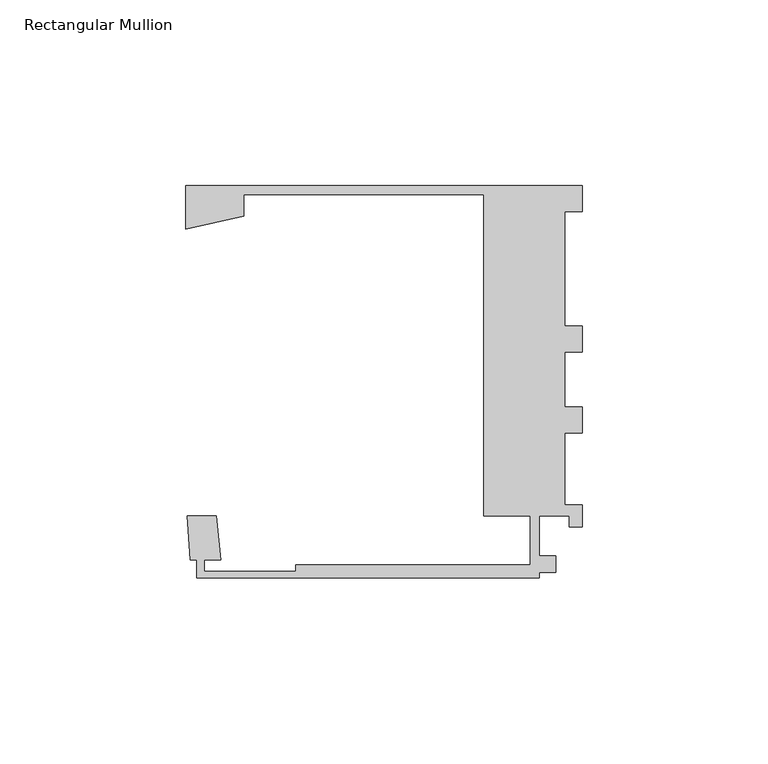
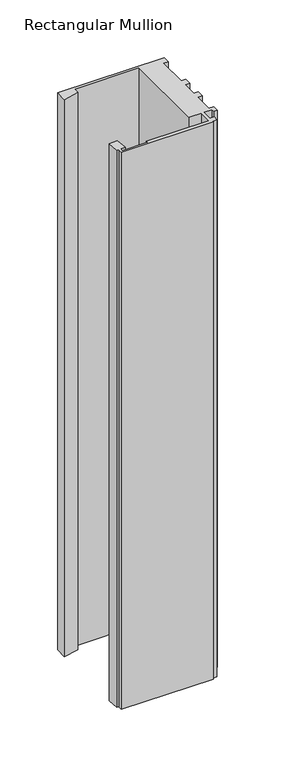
"""IFC4 building model written with IfcOpenShell, lengths in millimetres: member geometry, Rectangular Mullion : Danpal_Airpt_End-Mullion_B1."""

from ifc_helpers import new_model, si_unit, frame, origin, place, context, project, spatial, polyline, outline, extrude, source, transform, mapped, element, save


def rectangular_mullion_3d33f7ff(model_context):
    return source(origin(), model_context, "Body", "SweptSolid", [
        extrude(outline(polyline([(-11.6055875, -92.6094337), (-103.8999976, -92.6094337), (-103.8999976, -87.7698451), (-105.6776694, -87.7698451), (-106.4274982, -75.8596534), (-98.5693208, -75.8596534), (-97.4384397, -87.7698451), (-101.8999976, -87.7698451), (-101.8999976, -90.8094336), (-77.1531178, -90.8094336), (-77.1531178, -89.1094336), (-14.1055875, -89.1094336), (-14.1055875, -75.8596534), (-26.6209612, -75.8596534), (-26.6209612, 10.6837558), (-91.2900275, 10.6837558), (-91.2900275, 4.9090081), (-106.8892292, 1.4378016), (-106.8892292, 13.1837558), (0.0, 13.1837558), (0.0, 6.1837558), (-4.8, 6.1837558), (-4.8, -24.6595054), (0.0, -24.6595054), (0.0, -31.6595227), (-4.8, -31.6595227), (-4.8, -46.4688518), (0.0, -46.4688518), (0.0, -53.4688518), (-4.8, -53.4688518), (-4.8, -72.9077707), (0.0, -72.9077707), (0.0, -78.8594337), (-3.5072447, -78.8594337), (-3.5072447, -75.8594337), (-11.6055875, -75.8594337), (-11.6055875, -86.6049249), (-7.1518595, -86.6049249), (-7.1518595, -91.1094337), (-11.6055875, -91.1094337), (-11.6055875, -92.6094337)])), frame((0.0, 0.0, -590.9514438), z_axis=(0.0, 0.0, 1.0), x_axis=(1.0, 0.0, 0.0)), (0.0, 0.0, 1.0), 590.9514438),
    ])


if __name__ == "__main__":
    model = new_model("IFC4")
    model_context = context("Model", 3, world=origin())
    ifc_project = project(units=[si_unit("LENGTHUNIT", "METRE", prefix="MILLI")], contexts=[model_context])
    site = spatial("IfcSite", under=ifc_project)
    building = spatial("IfcBuilding", under=site)
    placement = place(None, origin())
    rectangular_mullion_shape = rectangular_mullion_3d33f7ff(model_context)
    element("IfcMember", 1, ObjectType="Rectangular Mullion : Danpal_Airpt_End-Mullion_B1", at=placement, inside=building, context=model_context, shape_type="MappedRepresentation", body=[
        mapped(rectangular_mullion_shape, transform((0.0, 0.0, 0.0), x_axis=(1.0, 0.0, 0.0), y_axis=(0.0, 1.0, 0.0), z_axis=(0.0, 0.0, 1.0))),
    ])
    save(model, "model.ifc")
